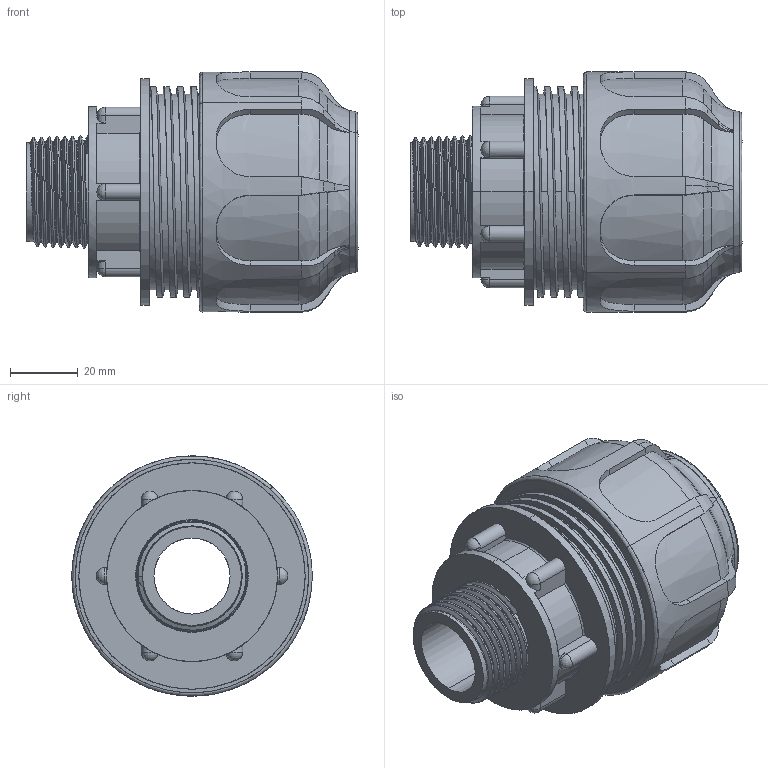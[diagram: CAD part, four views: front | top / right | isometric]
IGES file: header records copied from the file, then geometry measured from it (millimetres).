
Start section: SolidWorks IGES file using analytic representation for surfaces
Global section: file name: P:\DisegniUfficioTecnico\Articoli\ARTICOLI_3D\DISEGNI_STEP_IGS_SITO\02004\02004_IGS\02004.0730.IGS; native system: SolidWorks 2011; preprocessor: SolidWorks 2011; author: giacomo; date: 170522.160449; units: millimetre
Bounding box: 98.28 x 71.08 x 71.09 mm (x, y, z)
Surface area: 75046.7 mm2 (no closed solid volume)
Topology: 0 solids, 0 shells, 444 faces, 10064 edges, 10047 vertices
Faces by surface type: bspline 245, revolution 199
